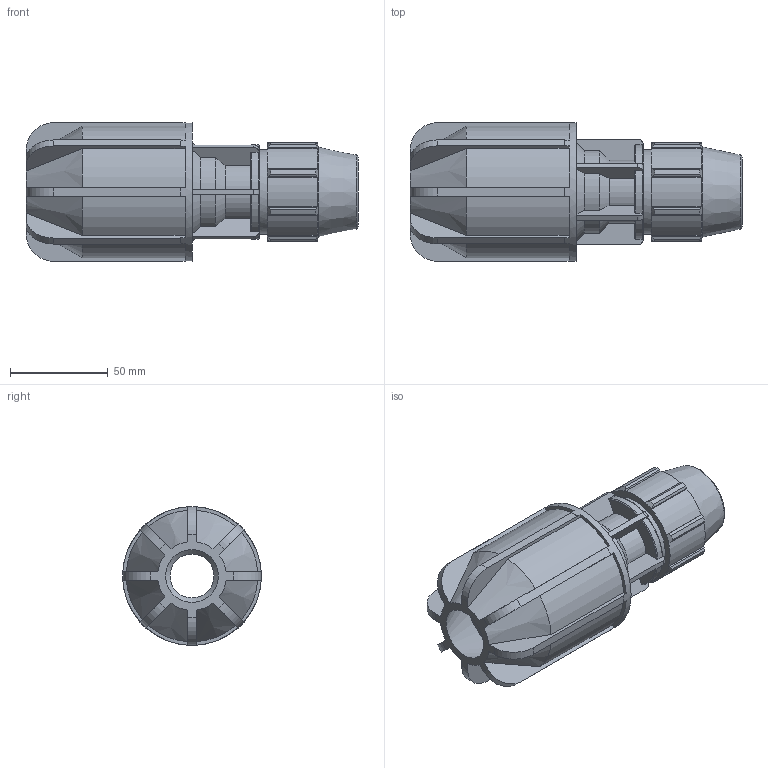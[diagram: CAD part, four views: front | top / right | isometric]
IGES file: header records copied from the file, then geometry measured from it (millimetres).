
Global section: file name: 070170025027_180170025027_0701760250270A.ipt; native system: Autodesk Inventor 2015; preprocessor: unknown; author: KIM; date: 20170606.172101; units: millimetre
Bounding box: 170 x 71 x 71 mm (x, y, z)
Volume: 271508.8 mm3; surface area: 63927.3 mm2
Topology: 1 solids, 1 shells, 211 faces, 640 edges, 425 vertices
Faces by surface type: plane 112, cylinder 53, cone 25, revolution 21
Full cylindrical faces by diameter (mm): 32.541 x1, 43.2 x1, 71 x1
